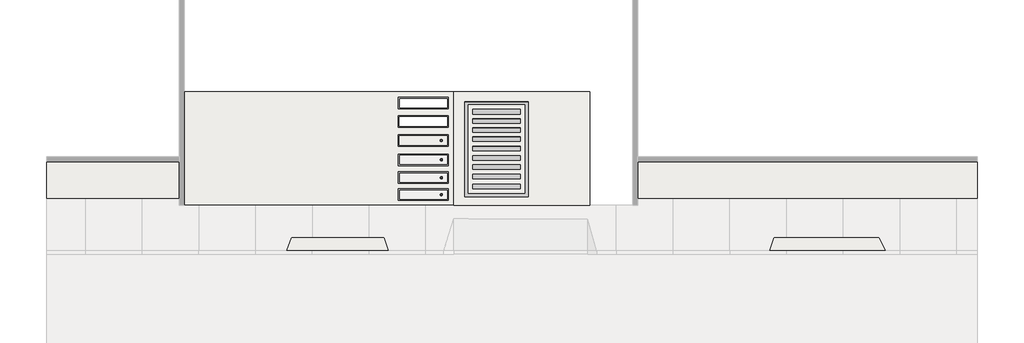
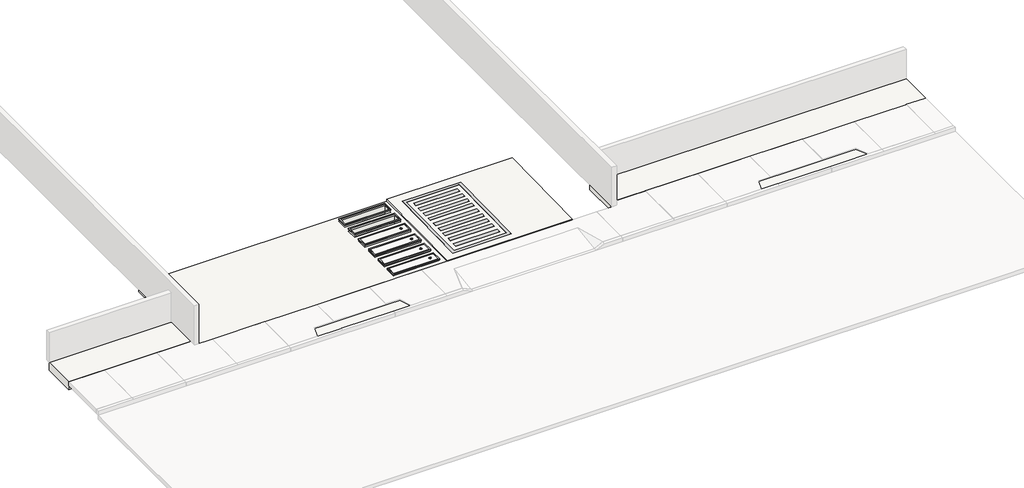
# One storey, part 2 of 2: 7 proxies, 5 slabs, 4 light fixtures.
"""IFC4 building model written with IfcOpenShell, lengths in millimetres."""

from ifc_helpers import new_model, si_unit, point, frame, frame_2d, origin, place, context, project, spatial, polyline, circle_curve, trimmed, segment, composite_curve, outline, extrude, faceted_brep, transform, mapped, element, save
from components import generic_models_5f3c3b85, light_fixture_10b4d906

model = new_model("IFC4")

# Units and contexts
model_context = context("Model", 3, world=origin())
ifc_project = project(units=[si_unit("LENGTHUNIT", "METRE", prefix="MILLI")], contexts=[model_context])

# Site, building, storey
site = spatial("IfcSite", under=ifc_project)
building = spatial("IfcBuilding", under=site)
storey = spatial("IfcBuildingStorey", under=building, Name="CALÇADA", Elevation=0.0)

# Proxies
placement = place(None, origin())
generic_models_shape = generic_models_5f3c3b85(model_context)
element("IfcBuildingElementProxy", 1, Name="Modelos genéricos 1 : Modelos genéricos 1", ObjectType="Modelos genéricos 1 : Modelos genéricos 1", at=placement, inside=storey, context=model_context, shape_type="MappedRepresentation", body=[
    mapped(generic_models_shape, transform((0.0, 0.0, 0.0), x_axis=(1.0, 0.0, 0.0), y_axis=(0.0, 1.0, 0.0), z_axis=(0.0, 0.0, 1.0))),
])
element("IfcBuildingElementProxy", 2, Name="MOLDURA_PISO_1 : MOLDURA_PISO_001", ObjectType="MOLDURA_PISO_1 : MOLDURA_PISO_001", at=placement, inside=storey, context=model_context, shape_type="Brep", body=[
    faceted_brep([(-6932.6012819, -5927.3839203, 133.0), (-6932.6012819, -5927.3839203, 130.0), (-6932.6012819, -5527.3839203, 130.0), (-6932.6012819, -5527.3839203, 133.0), (-6985.6012819, -5980.3839203, 80.0), (-6985.6012819, -5980.3839203, 133.0), (-6985.6012819, -5474.3839203, 133.0), (-6985.6012819, -5474.3839203, 80.0), (-6982.6012819, -5977.3839203, 130.0), (-6982.6012819, -5977.3839203, 80.0), (-6982.6012819, -5477.3839203, 80.0), (-6982.6012819, -5477.3839203, 130.0), (-4832.6012819, -5527.3839203, 130.0), (-4832.6012819, -5527.3839203, 133.0), (-4779.6012819, -5474.3839203, 133.0), (-4779.6012819, -5474.3839203, 80.0), (-4782.6012819, -5477.3839203, 80.0), (-4782.6012819, -5477.3839203, 130.0), (-4832.6012819, -5927.3839203, 130.0), (-4832.6012819, -5927.3839203, 133.0), (-4779.6012819, -5980.3839203, 133.0), (-4779.6012819, -5980.3839203, 80.0), (-4782.6012819, -5977.3839203, 80.0), (-4782.6012819, -5977.3839203, 130.0)], [[[0, 1, 2, 3]], [[4, 5, 6, 7]], [[8, 9, 10, 11]], [[3, 2, 12, 13]], [[7, 6, 14, 15]], [[11, 10, 16, 17]], [[13, 12, 18, 19]], [[15, 14, 20, 21]], [[17, 16, 22, 23]], [[19, 18, 1, 0]], [[5, 20, 14, 6], [3, 13, 19, 0]], [[21, 20, 5, 4]], [[7, 15, 21, 4], [9, 22, 16, 10]], [[23, 22, 9, 8]], [[11, 17, 23, 8], [1, 18, 12, 2]]]),
])
element("IfcBuildingElementProxy", 3, Name="MOLDURA_PISO_1 : MOLDURA_PISO_001", ObjectType="MOLDURA_PISO_1 : MOLDURA_PISO_001", at=placement, inside=storey, context=model_context, shape_type="Brep", body=[
    faceted_brep([(-6937.6012819, -6738.3839203, 133.0), (-6937.6012819, -6738.3839203, 130.0), (-6937.6012819, -6338.3839203, 130.0), (-6937.6012819, -6338.3839203, 133.0), (-6990.6012819, -6791.3839203, 80.0), (-6990.6012819, -6791.3839203, 133.0), (-6990.6012819, -6285.3839203, 133.0), (-6990.6012819, -6285.3839203, 80.0), (-6987.6012819, -6788.3839203, 130.0), (-6987.6012819, -6788.3839203, 80.0), (-6987.6012819, -6288.3839203, 80.0), (-6987.6012819, -6288.3839203, 130.0), (-4837.6012819, -6338.3839203, 130.0), (-4837.6012819, -6338.3839203, 133.0), (-4784.6012819, -6285.3839203, 133.0), (-4784.6012819, -6285.3839203, 80.0), (-4787.6012819, -6288.3839203, 80.0), (-4787.6012819, -6288.3839203, 130.0), (-4837.6012819, -6738.3839203, 130.0), (-4837.6012819, -6738.3839203, 133.0), (-4784.6012819, -6791.3839203, 133.0), (-4784.6012819, -6791.3839203, 80.0), (-4787.6012819, -6788.3839203, 80.0), (-4787.6012819, -6788.3839203, 130.0)], [[[0, 1, 2, 3]], [[4, 5, 6, 7]], [[8, 9, 10, 11]], [[3, 2, 12, 13]], [[7, 6, 14, 15]], [[11, 10, 16, 17]], [[13, 12, 18, 19]], [[15, 14, 20, 21]], [[17, 16, 22, 23]], [[19, 18, 1, 0]], [[5, 20, 14, 6], [3, 13, 19, 0]], [[21, 20, 5, 4]], [[7, 15, 21, 4], [9, 22, 16, 10]], [[23, 22, 9, 8]], [[11, 17, 23, 8], [1, 18, 12, 2]]]),
])
element("IfcBuildingElementProxy", 4, Name="MOLDURA_PISO_1 : MOLDURA_PISO_001", ObjectType="MOLDURA_PISO_1 : MOLDURA_PISO_001", at=placement, inside=storey, context=model_context, shape_type="Brep", body=[
    faceted_brep([(-6932.6012819, -9962.3839203, 80.0), (-6932.6012819, -9962.3839203, 77.0), (-6932.6012819, -9562.3839203, 77.0), (-6932.6012819, -9562.3839203, 80.0), (-6985.6012819, -10015.3839203, 27.0), (-6985.6012819, -10015.3839203, 80.0), (-6985.6012819, -9509.3839203, 80.0), (-6985.6012819, -9509.3839203, 27.0), (-6982.6012819, -10012.3839203, 77.0), (-6982.6012819, -10012.3839203, 27.0), (-6982.6012819, -9512.3839203, 27.0), (-6982.6012819, -9512.3839203, 77.0), (-4832.6012819, -9562.3839203, 77.0), (-4832.6012819, -9562.3839203, 80.0), (-4779.6012819, -9509.3839203, 80.0), (-4779.6012819, -9509.3839203, 27.0), (-4782.6012819, -9512.3839203, 27.0), (-4782.6012819, -9512.3839203, 77.0), (-4832.6012819, -9962.3839203, 77.0), (-4832.6012819, -9962.3839203, 80.0), (-4779.6012819, -10015.3839203, 80.0), (-4779.6012819, -10015.3839203, 27.0), (-4782.6012819, -10012.3839203, 27.0), (-4782.6012819, -10012.3839203, 77.0)], [[[0, 1, 2, 3]], [[4, 5, 6, 7]], [[8, 9, 10, 11]], [[3, 2, 12, 13]], [[7, 6, 14, 15]], [[11, 10, 16, 17]], [[13, 12, 18, 19]], [[15, 14, 20, 21]], [[17, 16, 22, 23]], [[19, 18, 1, 0]], [[5, 20, 14, 6], [3, 13, 19, 0]], [[21, 20, 5, 4]], [[7, 15, 21, 4], [9, 22, 16, 10]], [[23, 22, 9, 8]], [[11, 17, 23, 8], [1, 18, 12, 2]]]),
])
element("IfcBuildingElementProxy", 5, Name="MOLDURA_PISO_1 : MOLDURA_PISO_001", ObjectType="MOLDURA_PISO_1 : MOLDURA_PISO_001", at=placement, inside=storey, context=model_context, shape_type="Brep", body=[
    faceted_brep([(-6932.6012819, -9214.3839203, 98.0), (-6932.6012819, -9214.3839203, 95.0), (-6932.6012819, -8814.3839203, 95.0), (-6932.6012819, -8814.3839203, 98.0), (-6985.6012819, -9267.3839203, 45.0), (-6985.6012819, -9267.3839203, 98.0), (-6985.6012819, -8761.3839203, 98.0), (-6985.6012819, -8761.3839203, 45.0), (-6982.6012819, -9264.3839203, 95.0), (-6982.6012819, -9264.3839203, 45.0), (-6982.6012819, -8764.3839203, 45.0), (-6982.6012819, -8764.3839203, 95.0), (-4832.6012819, -8814.3839203, 95.0), (-4832.6012819, -8814.3839203, 98.0), (-4779.6012819, -8761.3839203, 98.0), (-4779.6012819, -8761.3839203, 45.0), (-4782.6012819, -8764.3839203, 45.0), (-4782.6012819, -8764.3839203, 95.0), (-4832.6012819, -9214.3839203, 95.0), (-4832.6012819, -9214.3839203, 98.0), (-4779.6012819, -9267.3839203, 98.0), (-4779.6012819, -9267.3839203, 45.0), (-4782.6012819, -9264.3839203, 45.0), (-4782.6012819, -9264.3839203, 95.0)], [[[0, 1, 2, 3]], [[4, 5, 6, 7]], [[8, 9, 10, 11]], [[3, 2, 12, 13]], [[7, 6, 14, 15]], [[11, 10, 16, 17]], [[13, 12, 18, 19]], [[15, 14, 20, 21]], [[17, 16, 22, 23]], [[19, 18, 1, 0]], [[5, 20, 14, 6], [3, 13, 19, 0]], [[21, 20, 5, 4]], [[7, 15, 21, 4], [9, 22, 16, 10]], [[23, 22, 9, 8]], [[11, 17, 23, 8], [1, 18, 12, 2]]]),
])
element("IfcBuildingElementProxy", 6, Name="MOLDURA_PISO_1 : MOLDURA_PISO_001", ObjectType="MOLDURA_PISO_1 : MOLDURA_PISO_001", at=placement, inside=storey, context=model_context, shape_type="Brep", body=[
    faceted_brep([(-6937.6012819, -7573.3839203, 123.0), (-6937.6012819, -7573.3839203, 120.0), (-6937.6012819, -7173.3839203, 120.0), (-6937.6012819, -7173.3839203, 123.0), (-6990.6012819, -7626.3839203, 70.0), (-6990.6012819, -7626.3839203, 123.0), (-6990.6012819, -7120.3839203, 123.0), (-6990.6012819, -7120.3839203, 70.0), (-6987.6012819, -7623.3839203, 120.0), (-6987.6012819, -7623.3839203, 70.0), (-6987.6012819, -7123.3839203, 70.0), (-6987.6012819, -7123.3839203, 120.0), (-4837.6012819, -7173.3839203, 120.0), (-4837.6012819, -7173.3839203, 123.0), (-4784.6012819, -7120.3839203, 123.0), (-4784.6012819, -7120.3839203, 70.0), (-4787.6012819, -7123.3839203, 70.0), (-4787.6012819, -7123.3839203, 120.0), (-4837.6012819, -7573.3839203, 120.0), (-4837.6012819, -7573.3839203, 123.0), (-4784.6012819, -7626.3839203, 123.0), (-4784.6012819, -7626.3839203, 70.0), (-4787.6012819, -7623.3839203, 70.0), (-4787.6012819, -7623.3839203, 120.0)], [[[0, 1, 2, 3]], [[4, 5, 6, 7]], [[8, 9, 10, 11]], [[3, 2, 12, 13]], [[7, 6, 14, 15]], [[11, 10, 16, 17]], [[13, 12, 18, 19]], [[15, 14, 20, 21]], [[17, 16, 22, 23]], [[19, 18, 1, 0]], [[5, 20, 14, 6], [3, 13, 19, 0]], [[21, 20, 5, 4]], [[7, 15, 21, 4], [9, 22, 16, 10]], [[23, 22, 9, 8]], [[11, 17, 23, 8], [1, 18, 12, 2]]]),
])
element("IfcBuildingElementProxy", 7, Name="MOLDURA_PISO_1 : MOLDURA_PISO_001", ObjectType="MOLDURA_PISO_1 : MOLDURA_PISO_001", at=placement, inside=storey, context=model_context, shape_type="Brep", body=[
    faceted_brep([(-6932.6012819, -8426.3839203, 113.0), (-6932.6012819, -8426.3839203, 110.0), (-6932.6012819, -8026.3839203, 110.0), (-6932.6012819, -8026.3839203, 113.0), (-6985.6012819, -8479.3839203, 60.0), (-6985.6012819, -8479.3839203, 113.0), (-6985.6012819, -7973.3839203, 113.0), (-6985.6012819, -7973.3839203, 60.0), (-6982.6012819, -8476.3839203, 110.0), (-6982.6012819, -8476.3839203, 60.0), (-6982.6012819, -7976.3839203, 60.0), (-6982.6012819, -7976.3839203, 110.0), (-4832.6012819, -8026.3839203, 110.0), (-4832.6012819, -8026.3839203, 113.0), (-4779.6012819, -7973.3839203, 113.0), (-4779.6012819, -7973.3839203, 60.0), (-4782.6012819, -7976.3839203, 60.0), (-4782.6012819, -7976.3839203, 110.0), (-4832.6012819, -8426.3839203, 110.0), (-4832.6012819, -8426.3839203, 113.0), (-4779.6012819, -8479.3839203, 113.0), (-4779.6012819, -8479.3839203, 60.0), (-4782.6012819, -8476.3839203, 60.0), (-4782.6012819, -8476.3839203, 110.0)], [[[0, 1, 2, 3]], [[4, 5, 6, 7]], [[8, 9, 10, 11]], [[3, 2, 12, 13]], [[7, 6, 14, 15]], [[11, 10, 16, 17]], [[13, 12, 18, 19]], [[15, 14, 20, 21]], [[17, 16, 22, 23]], [[19, 18, 1, 0]], [[5, 20, 14, 6], [3, 13, 19, 0]], [[21, 20, 5, 4]], [[7, 15, 21, 4], [9, 22, 16, 10]], [[23, 22, 9, 8]], [[11, 17, 23, 8], [1, 18, 12, 2]]]),
])

# Light fixtures
light_fixture_shape = light_fixture_10b4d906(model_context)
element("IfcLightFixture", 8, ObjectType="Iluminação de caminho - Redonda embutida - Com base no chão : Iluminação de caminho - Redonda embutida - Com base no chão", at=placement, inside=storey, context=model_context, shape_type="MappedRepresentation", body=[
    mapped(light_fixture_shape, transform((-5091.5118355, -9762.3839203, 77.0), x_axis=(1.0, 0.0, 0.0), y_axis=(0.0, 1.0, 0.0), z_axis=(0.0, 0.0, 1.0))),
])
element("IfcLightFixture", 9, ObjectType="Iluminação de caminho - Redonda embutida - Com base no chão : Iluminação de caminho - Redonda embutida - Com base no chão", at=placement, inside=storey, context=model_context, shape_type="MappedRepresentation", body=[
    mapped(light_fixture_shape, transform((-5091.5118355, -9014.3839203, 95.0), x_axis=(1.0, 0.0, 0.0), y_axis=(0.0, 1.0, 0.0), z_axis=(0.0, 0.0, 1.0))),
])
element("IfcLightFixture", 10, ObjectType="Iluminação de caminho - Redonda embutida - Com base no chão : Iluminação de caminho - Redonda embutida - Com base no chão", at=placement, inside=storey, context=model_context, shape_type="MappedRepresentation", body=[
    mapped(light_fixture_shape, transform((-5096.5118355, -7373.3839203, 120.0), x_axis=(1.0, 0.0, 0.0), y_axis=(0.0, 1.0, 0.0), z_axis=(0.0, 0.0, 1.0))),
])
element("IfcLightFixture", 11, ObjectType="Iluminação de caminho - Redonda embutida - Com base no chão : Iluminação de caminho - Redonda embutida - Com base no chão", at=placement, inside=storey, context=model_context, shape_type="MappedRepresentation", body=[
    mapped(light_fixture_shape, transform((-5091.5118355, -8226.3839203, 110.0), x_axis=(1.0, 0.0, 0.0), y_axis=(0.0, 1.0, 0.0), z_axis=(0.0, 0.0, 1.0))),
])

# Slabs
element("IfcSlab", 12, ObjectType="Grama - Aterro - 40cm", at=placement, inside=storey, context=model_context, shape_type="Brep", body=[
    faceted_brep([(-16431.5118355, -5233.9118273, -400.0), (-4541.5118355, -5233.9118273, -400.0), (-4541.5118355, -10233.9118273, -400.0), (-16431.5118355, -10233.9118273, -400.0), (-6982.5518343, -5474.3839203, -400.0), (-6982.5518343, -5977.2596302, -400.0), (-4779.6012819, -5977.2596302, -400.0), (-4779.6012819, -5474.3839203, -400.0), (-6990.6012819, -6285.3839203, -400.0), (-6990.6012819, -6791.3839203, -400.0), (-4784.6012819, -6791.3839203, -400.0), (-4784.6012819, -6285.3839203, -400.0), (-6990.6012819, -7123.2596302, -400.0), (-6990.6012819, -7629.2596302, -400.0), (-4784.6012819, -7629.2596302, -400.0), (-4784.6012819, -7123.2596302, -400.0), (-6990.6012819, -7973.2596302, -400.0), (-6990.6012819, -8479.2596302, -400.0), (-4784.6012819, -8479.2596302, -400.0), (-4784.6012819, -7973.2596302, -400.0), (-6990.6012819, -8761.3839203, -400.0), (-6990.6012819, -9267.3839203, -400.0), (-4784.6012819, -9267.3839203, -400.0), (-4784.6012819, -8761.3839203, -400.0), (-6990.6012819, -9509.3839203, -400.0), (-6990.6012819, -10015.3839203, -400.0), (-4784.6012819, -10015.3839203, -400.0), (-4784.6012819, -9509.3839203, -400.0), (-16431.5118355, -5233.9118273, 0.0), (-16431.5118355, -10233.9118273, 0.0), (-4541.5118355, -10233.9118273, 0.0), (-4541.5118355, -5233.9118273, 0.0), (-6982.5518343, -5474.3839203, 0.0), (-4779.6012819, -5474.3839203, 0.0), (-4779.6012819, -5977.2596302, 0.0), (-6982.5518343, -5977.2596302, 0.0), (-6990.6012819, -6285.3839203, 0.0), (-4784.6012819, -6285.3839203, 0.0), (-4784.6012819, -6791.3839203, 0.0), (-6990.6012819, -6791.3839203, 0.0), (-6990.6012819, -7123.2596302, 0.0), (-4784.6012819, -7123.2596302, 0.0), (-4784.6012819, -7629.2596302, 0.0), (-6990.6012819, -7629.2596302, 0.0), (-6990.6012819, -7973.2596302, 0.0), (-4784.6012819, -7973.2596302, 0.0), (-4784.6012819, -8479.2596302, 0.0), (-6990.6012819, -8479.2596302, 0.0), (-6990.6012819, -8761.3839203, 0.0), (-4784.6012819, -8761.3839203, 0.0), (-4784.6012819, -9267.3839203, 0.0), (-6990.6012819, -9267.3839203, 0.0), (-6990.6012819, -9509.3839203, 0.0), (-4784.6012819, -9509.3839203, 0.0), (-4784.6012819, -10015.3839203, 0.0), (-6990.6012819, -10015.3839203, 0.0), (-6982.5518343, -5977.2596302, -70.0)], [[[0, 1, 2, 3], [4, 5, 6, 7], [8, 9, 10, 11], [12, 13, 14, 15], [16, 17, 18, 19], [20, 21, 22, 23], [24, 25, 26, 27]], [[28, 29, 30, 31], [32, 33, 34, 35], [36, 37, 38, 39], [40, 41, 42, 43], [44, 45, 46, 47], [48, 49, 50, 51], [52, 53, 54, 55]], [[1, 0, 28, 31]], [[2, 1, 31, 30]], [[3, 2, 30, 29]], [[0, 3, 29, 28]], [[5, 4, 32, 35, 56]], [[6, 5, 56, 35, 34]], [[7, 6, 34, 33]], [[4, 7, 33, 32]], [[9, 8, 36, 39]], [[10, 9, 39, 38]], [[11, 10, 38, 37]], [[8, 11, 37, 36]], [[13, 12, 40, 43]], [[14, 13, 43, 42]], [[15, 14, 42, 41]], [[12, 15, 41, 40]], [[17, 16, 44, 47]], [[18, 17, 47, 46]], [[19, 18, 46, 45]], [[16, 19, 45, 44]], [[21, 20, 48, 51]], [[22, 21, 51, 50]], [[23, 22, 50, 49]], [[20, 23, 49, 48]], [[25, 24, 52, 55]], [[26, 25, 55, 54]], [[27, 26, 54, 53]], [[24, 27, 53, 52]]]),
])
element("IfcSlab", 13, ObjectType="Grama - Aterro - 40cm", at=placement, inside=storey, context=model_context, shape_type="SweptSolid", body=[
    extrude(outline(polyline([(-11718.1118355, -11633.9118273), (-7618.1118355, -11633.9118273), (-7418.1118355, -12233.9118273), (-11918.1118355, -12233.9118273), (-11718.1118355, -11633.9118273)])), frame((0.0, 0.0, -450.0), z_axis=(0.0, 0.0, 1.0), x_axis=(1.0, 0.0, 0.0)), (0.0, 0.0, 1.0), 400.0),
    extrude(outline(polyline([(9552.6193652, -11633.9118273), (14216.0358554, -11633.9118273), (14496.0358554, -12233.9118273), (9352.6193652, -12233.9118273), (9552.6193652, -11633.9118273)])), frame((0.0, 0.0, -450.0), z_axis=(0.0, 0.0, 1.0), x_axis=(1.0, 0.0, 0.0)), (0.0, 0.0, 1.0), 400.0),
])
element("IfcSlab", 14, ObjectType="Concreto Escuro - 20cm", at=placement, inside=storey, context=model_context, shape_type="SweptSolid", body=[
    extrude(outline(polyline([(-6987.5518343, -7123.2596302), (-4787.5518343, -7123.2596302), (-4787.5518343, -7623.2596302), (-6987.5518343, -7623.2596302), (-6987.5518343, -7123.2596302)]), holes=[composite_curve([segment(trimmed(circle_curve(frame_2d((-5096.5118355, -7373.3839203)), 51.0), [point((-5096.5118355, -7424.3839203))], [point((-5096.5118355, -7322.3839203))], True, "CARTESIAN"), True, "CONTINUOUS"), segment(trimmed(circle_curve(frame_2d((-5096.5118355, -7373.3839203)), 51.0), [point((-5096.5118355, -7322.3839203))], [point((-5096.5118355, -7424.3839203))], True, "CARTESIAN"), True, "CONTINUOUS")], self_intersect=False)]), frame((0.0, 0.0, -80.0), z_axis=(0.0, 0.0, 1.0), x_axis=(1.0, 0.0, 0.0)), (0.0, 0.0, 1.0), 200.0),
])
element("IfcSlab", 15, ObjectType="pedra", at=placement, inside=storey, context=model_context, shape_type="SweptSolid", body=[
    extrude(outline(polyline([(-22493.1326561, -9933.9118273), (-22493.1326561, -8305.3717183), (-16541.5118355, -8305.3717183), (-16541.5118355, -9933.9118273), (-22493.1326561, -9933.9118273)])), frame((0.0, 0.0, -400.0), z_axis=(0.0, 0.0, 1.0), x_axis=(1.0, 0.0, 0.0)), (0.0, 0.0, 1.0), 400.0),
    extrude(outline(polyline([(3458.4881645, -8210.3717183), (18539.0313852, -8210.3717183), (18539.0313852, -9933.9118273), (3458.4881645, -9933.9118273), (3458.4881645, -8210.3717183)])), frame((0.0, 0.0, -400.0), z_axis=(0.0, 0.0, 1.0), x_axis=(1.0, 0.0, 0.0)), (0.0, 0.0, 1.0), 400.0),
])
element("IfcSlab", 16, ObjectType="piso de concreto 10cm", at=placement, inside=storey, context=model_context, shape_type="SweptSolid", body=[
    extrude(outline(polyline([(-10233.9118273, -80.0), (-10233.9118273, 20.0), (-5233.9118273, 100.0), (-5233.9118273, 0.0), (-10233.9118273, -80.0)])), frame((-4541.5118355, 0.0, 0.0), z_axis=(1.0, 0.0, 0.0), x_axis=(0.0, 1.0, 0.0)), (0.0, 0.0, 1.0), 6000.0),
])

save(model, "model.ifc")
